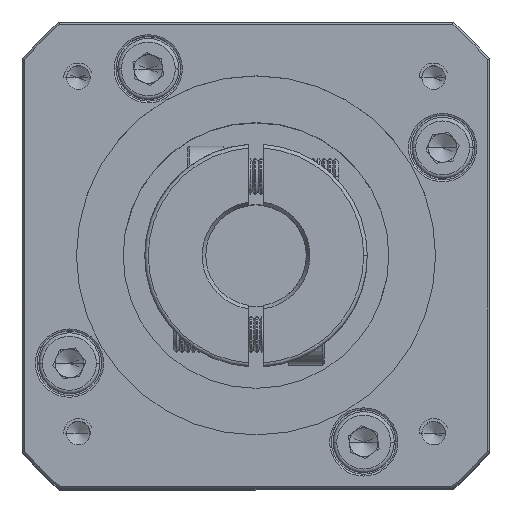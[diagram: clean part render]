
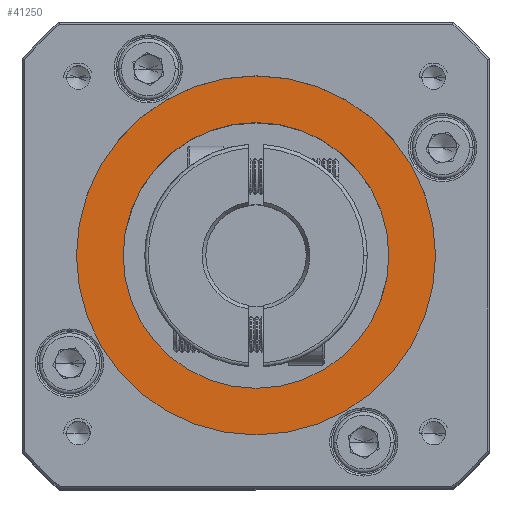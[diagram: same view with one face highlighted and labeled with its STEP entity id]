
A CAD part, top view. The second image highlights one B-rep face of the part: STEP entity #41250.
In plain terms, the highlighted planar face has unit normal (0, 0, 1).
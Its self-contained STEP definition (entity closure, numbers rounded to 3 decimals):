
#2238 = EDGE_LOOP ( 'NONE', ( #32810, #63081 ) ) ;
#3236 = FACE_OUTER_BOUND ( 'NONE', #2238, .T. ) ;
#3853 = AXIS2_PLACEMENT_3D ( 'NONE', #4299, #50964, #22618 ) ;
#4045 = CARTESIAN_POINT ( 'NONE',  ( -45.09, 29.291, 0.97 ) ) ;
#4299 = CARTESIAN_POINT ( 'NONE',  ( -45.09, 29.291, 0.97 ) ) ;
#4453 = DIRECTION ( 'NONE',  ( 1., 0., 0. ) ) ;
#4901 = EDGE_CURVE ( 'NONE', #116484, #22071, #23570, .T. ) ;
#16104 = DIRECTION ( 'NONE',  ( 0., 0., 1. ) ) ;
#17840 = CARTESIAN_POINT ( 'NONE',  ( -70.09, 29.291, 0.97 ) ) ;
#22071 = VERTEX_POINT ( 'NONE', #17840 ) ;
#22618 = DIRECTION ( 'NONE',  ( 1., 0., 0. ) ) ;
#23570 = CIRCLE ( 'NONE', #3853, 25. ) ;
#23970 = EDGE_CURVE ( 'NONE', #66200, #67357, #70594, .T. ) ;
#32810 = ORIENTED_EDGE ( 'NONE', *, *, #4901, .T. ) ;
#40254 = AXIS2_PLACEMENT_3D ( 'NONE', #69385, #40633, #78502 ) ;
#40633 = DIRECTION ( 'NONE',  ( 0., 0., -1. ) ) ;
#41250 = ADVANCED_FACE ( 'NONE', ( #3236, #114957 ), #80506, .T. ) ;
#45190 = EDGE_CURVE ( 'NONE', #67357, #66200, #56937, .T. ) ;
#47843 = AXIS2_PLACEMENT_3D ( 'NONE', #4045, #90696, #4453 ) ;
#47920 = DIRECTION ( 'NONE',  ( 0., 0., 1. ) ) ;
#48229 = EDGE_CURVE ( 'NONE', #22071, #116484, #51725, .T. ) ;
#50964 = DIRECTION ( 'NONE',  ( 0., 0., 1. ) ) ;
#51725 = CIRCLE ( 'NONE', #63157, 25. ) ;
#56937 = CIRCLE ( 'NONE', #40254, 18.5 ) ;
#59047 = CARTESIAN_POINT ( 'NONE',  ( -63.59, 29.291, 0.97 ) ) ;
#61971 = ORIENTED_EDGE ( 'NONE', *, *, #23970, .T. ) ;
#63081 = ORIENTED_EDGE ( 'NONE', *, *, #48229, .T. ) ;
#63157 = AXIS2_PLACEMENT_3D ( 'NONE', #73081, #16104, #111524 ) ;
#64434 = DIRECTION ( 'NONE',  ( 1., 0., 0. ) ) ;
#66200 = VERTEX_POINT ( 'NONE', #95967 ) ;
#67357 = VERTEX_POINT ( 'NONE', #59047 ) ;
#69385 = CARTESIAN_POINT ( 'NONE',  ( -45.09, 29.291, 0.97 ) ) ;
#70594 = CIRCLE ( 'NONE', #47843, 18.5 ) ;
#73081 = CARTESIAN_POINT ( 'NONE',  ( -45.09, 29.291, 0.97 ) ) ;
#78502 = DIRECTION ( 'NONE',  ( 1., 0., 0. ) ) ;
#78520 = EDGE_LOOP ( 'NONE', ( #61971, #86375 ) ) ;
#80506 = PLANE ( 'NONE',  #91630 ) ;
#83351 = CARTESIAN_POINT ( 'NONE',  ( -45.09, 29.291, 0.97 ) ) ;
#86375 = ORIENTED_EDGE ( 'NONE', *, *, #45190, .T. ) ;
#90696 = DIRECTION ( 'NONE',  ( 0., 0., -1. ) ) ;
#91630 = AXIS2_PLACEMENT_3D ( 'NONE', #83351, #47920, #64434 ) ;
#92441 = CARTESIAN_POINT ( 'NONE',  ( -20.09, 29.291, 0.97 ) ) ;
#95967 = CARTESIAN_POINT ( 'NONE',  ( -26.59, 29.291, 0.97 ) ) ;
#111524 = DIRECTION ( 'NONE',  ( 1., 0., 0. ) ) ;
#114957 = FACE_BOUND ( 'NONE', #78520, .T. ) ;
#116484 = VERTEX_POINT ( 'NONE', #92441 ) ;
